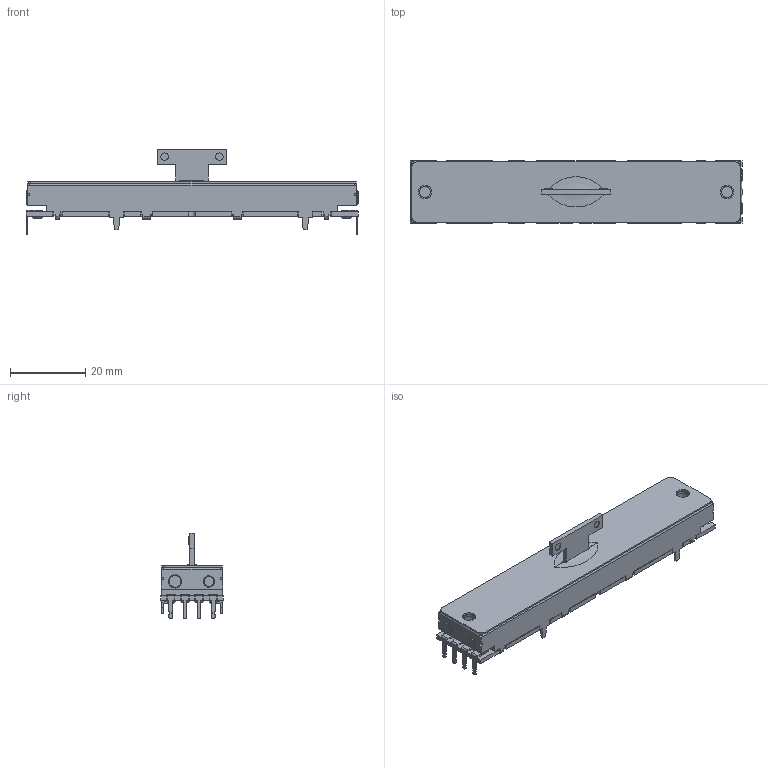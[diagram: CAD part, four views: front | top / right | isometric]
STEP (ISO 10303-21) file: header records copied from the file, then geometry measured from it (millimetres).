
FILE_DESCRIPTION(('FreeCAD Model'),'2;1');
FILE_NAME('Open CASCADE Shape Model','2025-07-01T23:40:32',(''),(''), 'Open CASCADE STEP processor 7.8','FreeCAD','Unknown');
FILE_SCHEMA(('AUTOMOTIVE_DESIGN { 1 0 10303 214 1 1 1 1 }'));
Length unit declared in the file: millimetre
Products named in the file (1): 2LSVA-610XD
Bounding box: 88 x 16.5 x 22.7 mm (x, y, z)
Volume: 12698.4 mm3; surface area: 6618.8 mm2
Topology: 1 solids, 7 shells, 632 faces, 1741 edges, 1139 vertices
Faces by surface type: plane 438, cylinder 169, cone 10, extrusion 6, torus 6, revolution 3
Full cylindrical faces by diameter (mm): 0.5 x6, 1.5 x6, 1.7 x8, 2 x4, 3 x4, 3.5 x4, 4 x2
Entity records: 24839 total; most frequent: CARTESIAN_POINT 4344, ORIENTED_EDGE 3490, DIRECTION 3361, EDGE_CURVE 1741, VECTOR 1314, LINE 1308, VERTEX_POINT 1136, AXIS2_PLACEMENT_3D 1022
